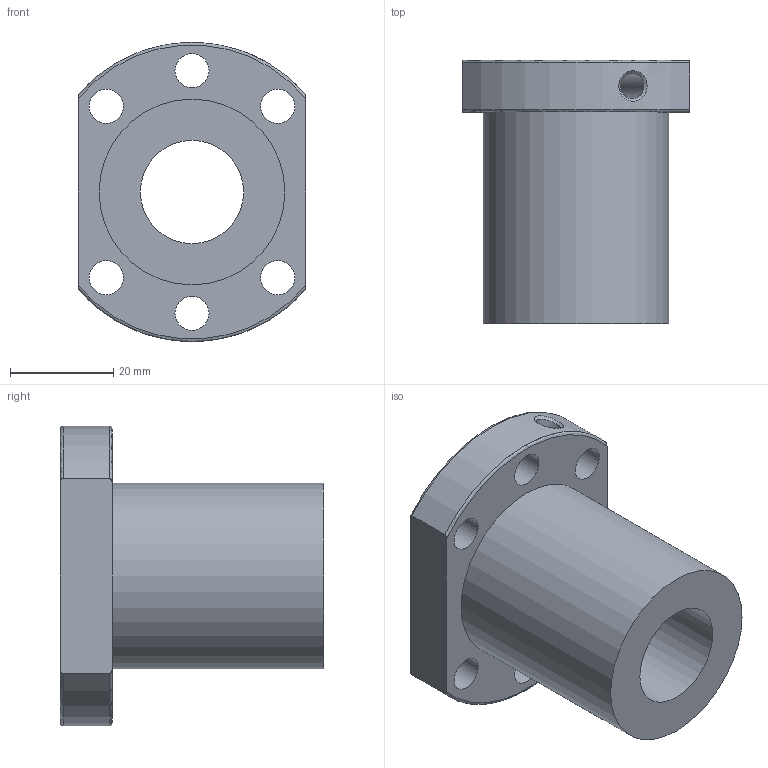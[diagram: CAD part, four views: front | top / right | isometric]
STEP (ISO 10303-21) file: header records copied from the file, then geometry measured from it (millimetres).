
FILE_DESCRIPTION(/* description */ (''),/* implementation_level */ '2;1');
FILE_NAME(/* name */ 'C:\Users\David Dillkötter\ownCloud\Kamp und Kötter\Artikel\Kugelumlaufspindel SFU2005\02_STEP-Dateien\SFU2005 Spindelmutter_MJ2020.stp',/* time_stamp */ '2020-08-25T15:54:16+02:00',/* author */ ('David Dillkötter'),/* organization */ (''),/* preprocessor_version */ 'ST-DEVELOPER v18.1',/* originating_system */ 'Autodesk Inventor 2021',/* authorisation */ '');
FILE_SCHEMA (('AUTOMOTIVE_DESIGN { 1 0 10303 214 3 1 1 }'));
Length unit declared in the file: millimetre
Products named in the file (1): SFU2005 Spindelmutter_MJ2020
Bounding box: 44 x 51 x 58 mm (x, y, z)
Volume: 46110.2 mm3; surface area: 14579.6 mm2
Topology: 1 solids, 1 shells, 22 faces, 56 edges, 37 vertices
Faces by surface type: cylinder 11, plane 5, torus 4, bspline 1, cone 1
Full cylindrical faces by diameter (mm): 4.917 x1, 6.6 x6, 20 x1, 36 x1
Entity records: 920 total; most frequent: CARTESIAN_POINT 319, DIRECTION 113, ORIENTED_EDGE 110, EDGE_CURVE 55, AXIS2_PLACEMENT_3D 47, EDGE_LOOP 38, VERTEX_POINT 37, CIRCLE 25
